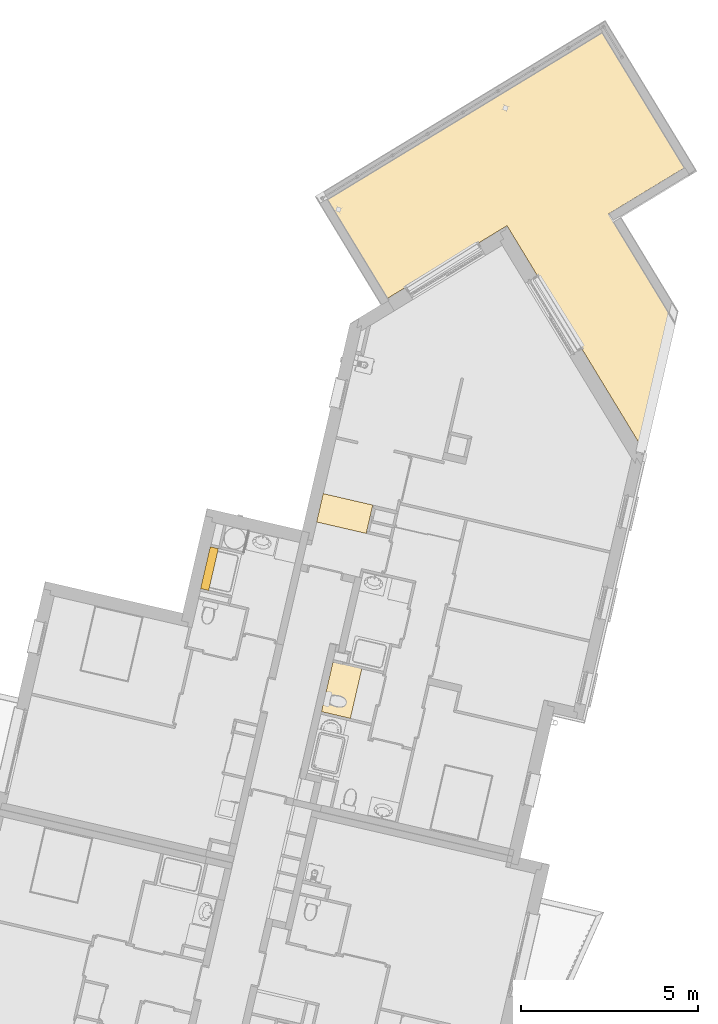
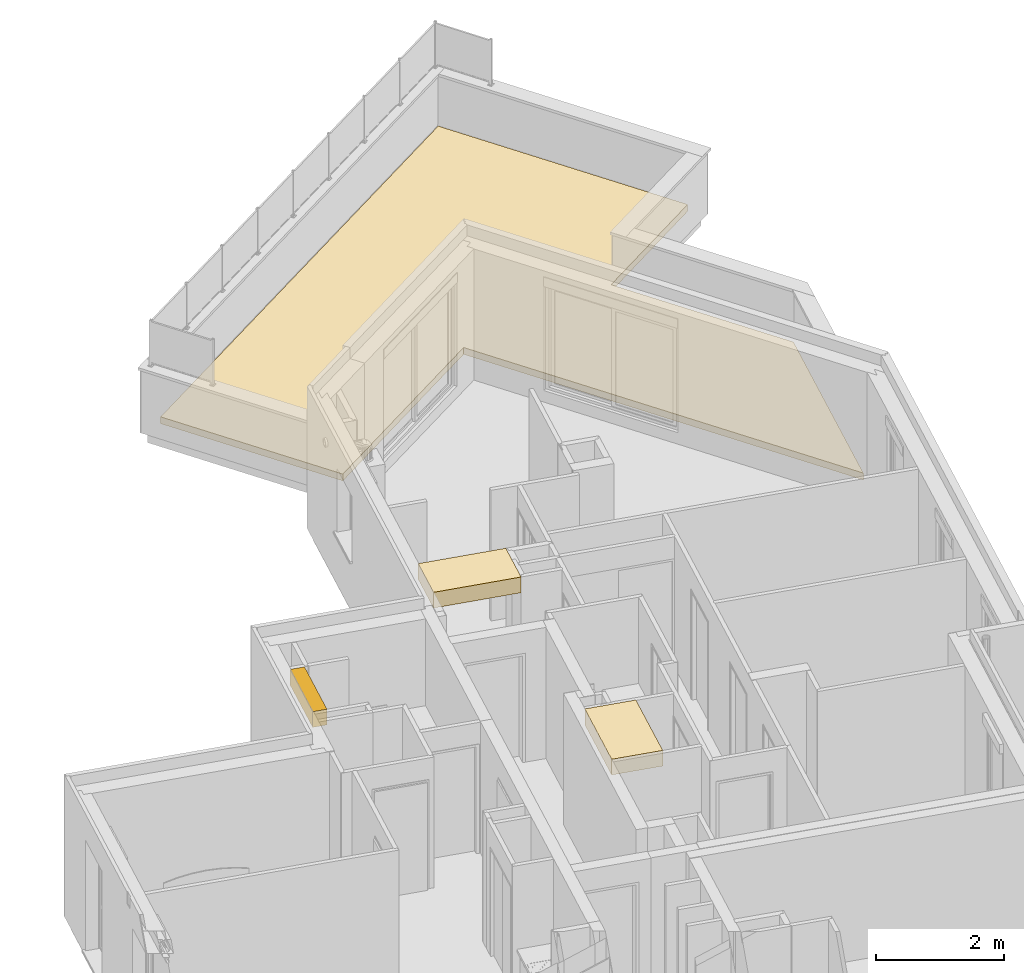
# One storey, part 60 of 91: 4 coverings.
"""IFC2X3 building model written with IfcOpenShell, lengths in metres."""

from ifc_helpers import new_model, entity, si_unit, converted_unit, derived_unit, money_unit, direction, frame, origin_with_axes, place, context, subcontext, project, spatial, faceted_brep, material, material_list, type_object, element, save


model = new_model("IFC2X3")

# Units and contexts
model_context = context("Model", 3, precision=1e-05, world=origin_with_axes(), true_north=direction((0.0, 1.0)))
body_context = subcontext(model_context, "Body", "Model", "MODEL_VIEW")
ifc_project = project(units=[si_unit("LENGTHUNIT", "METRE"), si_unit("AREAUNIT", "SQUARE_METRE"), si_unit("VOLUMEUNIT", "CUBIC_METRE"), converted_unit("PLANEANGLEUNIT", "DEGREE", entity("IfcPlaneAngleMeasure", 0.0174532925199), si_unit("PLANEANGLEUNIT", "RADIAN"), dimensions=[0, 0, 0, 0, 0, 0, 0]), si_unit("SOLIDANGLEUNIT", "STERADIAN"), money_unit("EUR"), converted_unit("TIMEUNIT", "Year", entity("IfcTimeMeasure", 31556926.0), si_unit("TIMEUNIT", "SECOND"), dimensions=[0, 0, 1, 0, 0, 0, 0]), si_unit("MASSUNIT", "GRAM", prefix="KILO"), si_unit("THERMODYNAMICTEMPERATUREUNIT", "DEGREE_CELSIUS"), si_unit("LUMINOUSINTENSITYUNIT", "LUMEN"), si_unit("ENERGYUNIT", "JOULE", prefix="MEGA"), derived_unit("THERMALCONDUCTANCEUNIT", [(si_unit("POWERUNIT", "WATT"), 1), (si_unit("LENGTHUNIT", "METRE"), -1), (si_unit("THERMODYNAMICTEMPERATUREUNIT", "KELVIN"), -1)]), derived_unit("SPECIFICHEATCAPACITYUNIT", [(si_unit("ENERGYUNIT", "JOULE"), 1), (si_unit("MASSUNIT", "GRAM", prefix="KILO"), -1), (si_unit("THERMODYNAMICTEMPERATUREUNIT", "KELVIN"), -1)]), derived_unit("MASSDENSITYUNIT", [(si_unit("MASSUNIT", "GRAM", prefix="KILO"), 1), (si_unit("VOLUMEUNIT", "CUBIC_METRE"), -1)])], contexts=[model_context])

# Site, building, storey
site_placement = place(None, origin_with_axes())
site = spatial("IfcSite", under=ifc_project, at=site_placement, Name="Site", CompositionType="ELEMENT")
building_placement = place(site_placement, origin_with_axes())
building = spatial("IfcBuilding", under=site, at=building_placement, Name="Bâtiment", CompositionType="ELEMENT")
storey_placement = place(building_placement, frame((0.0, 0.0, 5.44), z_axis=(0.0, 0.0, 1.0), x_axis=(1.0, 0.0, 0.0)))
storey = spatial("IfcBuildingStorey", under=building, at=storey_placement, Name="R+2", CompositionType="ELEMENT", Elevation=5.44)

# Coverings
ifc_material_1 = material(Name="Finition int - Plaque de plâtre")
covering_type_1 = type_object("IfcCoveringType", Name="Finition int - Plaque de plâtre 300", PredefinedType="CEILING")
covering_1_placement = place(storey_placement, frame((-6.20960587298, 12.5234841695, 2.5), z_axis=(0.0, 0.0, 1.0), x_axis=(1.0, 0.0, 0.0)))
element("IfcCovering", 1, at=covering_1_placement, inside=storey, type_object=covering_type_1, material=ifc_material_1, Name="Dalle_003", PredefinedType="CEILING", context=body_context, shape_type="Brep", body=[
    faceted_brep([(-1.39862635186, 0.322785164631, 0.0), (0.0, 0.0, 0.0), (0.0, 0.0, -0.3), (-1.39862635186, 0.322785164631, -0.3), (-1.58347458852, -0.478161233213, 0.0), (-0.184848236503, -0.80094639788, 0.0), (-0.184848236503, -0.80094639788, -0.3), (-1.58347458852, -0.478161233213, -0.3)], [[[0, 1, 2, 3]], [[4, 5, 1, 0]], [[1, 5, 6, 2]], [[7, 3, 2, 6]], [[4, 0, 3, 7]], [[5, 4, 7, 6]]]),
])
covering_2_placement = place(storey_placement, frame((-6.51702286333, 7.9140892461, 2.5), z_axis=(0.0, 0.0, 1.0), x_axis=(1.0, 0.0, 0.0)))
element("IfcCovering", 2, at=covering_2_placement, inside=storey, type_object=covering_type_1, material=ifc_material_1, Name="Dalle_003", PredefinedType="CEILING", context=body_context, shape_type="Brep", body=[
    faceted_brep([(-0.815562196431, 0.188221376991, 0.0), (0.0, 0.0, 0.0), (0.0, 0.0, -0.3), (-0.815562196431, 0.188221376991, -0.3), (-1.13948209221, -1.21532175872, 0.0), (-0.324389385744, -1.40557743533, 0.0), (-0.324389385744, -1.40557743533, -0.3), (-1.13948209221, -1.21532175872, -0.3)], [[[0, 1, 2, 3]], [[4, 5, 1, 0]], [[1, 5, 6, 2]], [[7, 3, 2, 6]], [[4, 0, 3, 7]], [[5, 4, 7, 6]]]),
])
covering_3_placement = place(storey_placement, frame((-10.7922800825, 11.3468418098, 2.5), z_axis=(0.0, 0.0, 1.0), x_axis=(1.0, 0.0, 0.0)))
element("IfcCovering", 3, at=covering_3_placement, inside=storey, type_object=covering_type_1, material=ifc_material_1, Name="Dalle_003", PredefinedType="CEILING", context=body_context, shape_type="Brep", body=[
    faceted_brep([(-0.272100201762, -1.17900868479, 0.0), (0.0, 0.0, 0.0), (0.0, 0.0, -0.3), (-0.272100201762, -1.17900868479, -0.3), (-0.0431191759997, -1.23185459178, 0.0), (0.22898102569, -0.0528459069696, 0.0), (0.22898102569, -0.0528459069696, -0.3), (-0.0431191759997, -1.23185459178, -0.3)], [[[0, 1, 2, 3]], [[4, 5, 1, 0]], [[1, 5, 6, 2]], [[7, 3, 2, 6]], [[4, 0, 3, 7]], [[5, 4, 7, 6]]]),
])
ifc_material_2 = material(Name="Finition sol - Dalles terrasse")
ifc_material_3 = material(Name="Divers - Vide")
ifc_material_list = material_list([ifc_material_2, ifc_material_3])
covering_type_2 = type_object("IfcCoveringType", Name="6 -Dalles sur plots 130", PredefinedType="INSULATION")
covering_4_placement = place(storey_placement, frame((-7.48636231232, 21.1335604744, 0.24), z_axis=(0.0, 0.0, 1.0), x_axis=(1.0, 0.0, 0.0)))
element("IfcCovering", 4, at=covering_4_placement, inside=storey, type_object=covering_type_2, material=ifc_material_list, Name="Dalle_004", PredefinedType="INSULATION", context=body_context, shape_type="Brep", body=[
    faceted_brep([(0.0, 0.0, -0.05), (1.69134740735, -2.78275167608, -0.05), (1.69134740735, -2.78275167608, 0.0), (0.0, 0.0, 0.0), (7.74129989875, 4.70513687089, -0.05), (10.056836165, 0.895415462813, -0.05), (7.92048732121, -0.403050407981, -0.05), (9.61385107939, -3.18911955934, -0.05), (8.77121611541, -6.84025224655, -0.05), (5.06046979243, -0.73501005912, -0.05), (5.06046979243, -0.73501005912, 0.0), (7.74129989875, 4.70513687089, 0.0), (8.77121611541, -6.84025224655, 0.0), (9.61385107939, -3.18911955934, 0.0), (7.92048732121, -0.403050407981, 0.0), (10.056836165, 0.895415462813, 0.0)], [[[0, 1, 2, 3]], [[1, 0, 4, 5, 6, 7, 8, 9]], [[1, 9, 10, 2]], [[11, 3, 2, 10, 12, 13, 14, 15]], [[4, 0, 3, 11]], [[5, 4, 11, 15]], [[6, 5, 15, 14]], [[7, 6, 14, 13]], [[8, 7, 13, 12]], [[9, 8, 12, 10]]]),
    faceted_brep([(0.0, 0.0, -0.05), (0.0, 0.0, -0.13), (1.69134740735, -2.78275167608, -0.13), (1.69134740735, -2.78275167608, -0.05), (7.74129989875, 4.70513687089, -0.05), (7.74129989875, 4.70513687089, -0.13), (10.056836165, 0.895415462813, -0.13), (7.92048732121, -0.403050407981, -0.13), (9.61385107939, -3.18911955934, -0.13), (8.77121611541, -6.84025224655, -0.13), (5.06046979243, -0.73501005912, -0.13), (5.06046979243, -0.73501005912, -0.05), (8.77121611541, -6.84025224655, -0.05), (9.61385107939, -3.18911955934, -0.05), (7.92048732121, -0.403050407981, -0.05), (10.056836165, 0.895415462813, -0.05)], [[[0, 1, 2, 3]], [[4, 5, 1, 0]], [[2, 1, 5, 6, 7, 8, 9, 10]], [[3, 2, 10, 11]], [[4, 0, 3, 11, 12, 13, 14, 15]], [[15, 6, 5, 4]], [[14, 7, 6, 15]], [[13, 8, 7, 14]], [[12, 9, 8, 13]], [[11, 10, 9, 12]]]),
])

save(model, "model.ifc")
